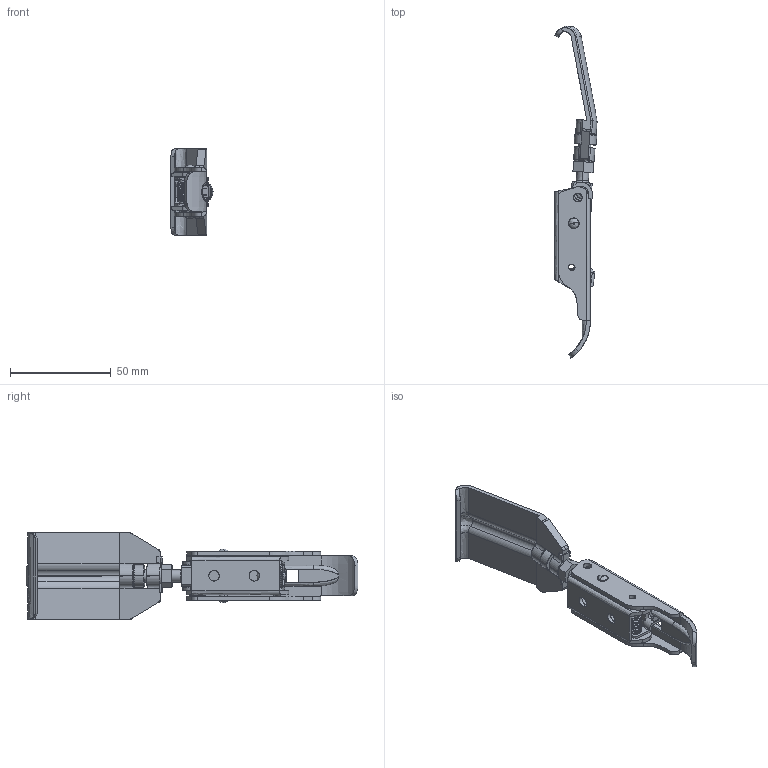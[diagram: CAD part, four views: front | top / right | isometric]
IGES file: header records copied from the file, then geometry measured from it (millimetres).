
Start section: SolidWorks IGES FILE using analytic representation for surfaces
Global section: file name: C:\Documents and Settings\lecoutey\Bureau\GR 78\GR 78.IGS; native system: SolidWorks 2004 by SolidWorks Corporation; preprocessor: Version 5.3; author: lecoutey; date: 050404.180438; units: millimetre
Bounding box: 20.96 x 164.82 x 43 mm (x, y, z)
Surface area: 24260.5 mm2 (no closed solid volume)
Topology: 0 solids, 0 shells, 440 faces, 6452 edges, 6452 vertices
Faces by surface type: bspline 237, revolution 203
